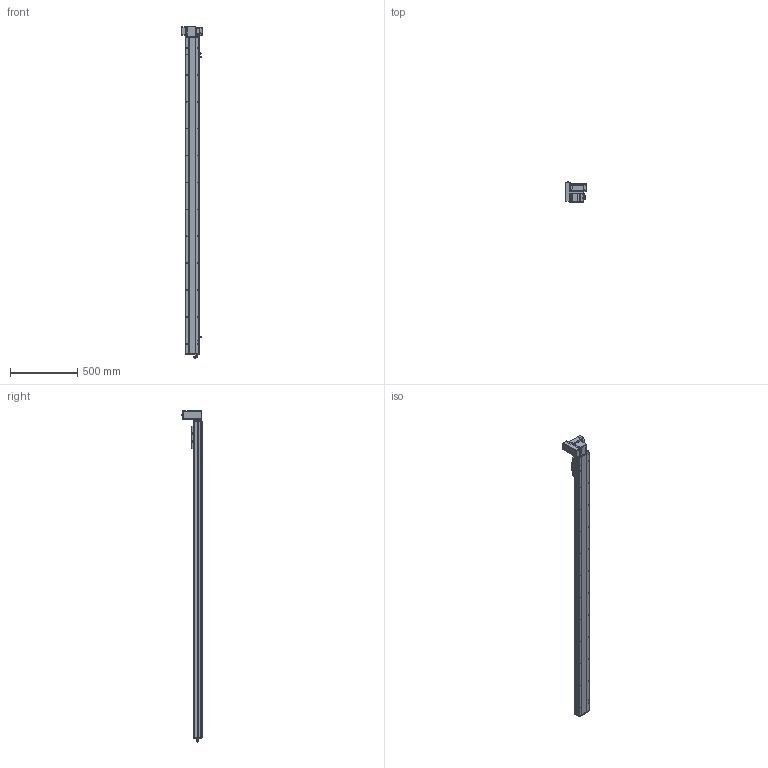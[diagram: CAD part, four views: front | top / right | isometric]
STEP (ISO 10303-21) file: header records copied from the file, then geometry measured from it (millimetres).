
FILE_DESCRIPTION (( 'STEP AP214' ), '1' );
FILE_NAME ('TPE10-L41.6-2100-LU-P20-C4.STEP', '2023-03-13T01:41:04', ( '' ), ( '' ), 'SwSTEP 2.0', 'SolidWorks 2020', '' );
FILE_SCHEMA (( 'AUTOMOTIVE_DESIGN' ));
Length unit declared in the file: millimetre
Products named in the file (16): 葩璃 TPF10 詩湍揤啣 TPF10 12^TPE10-L41.6-LU-P20-C4; 葩璃 詩湍75^TPE10-L41.6-LU-P20-C4; 葩璃 TPE10 賑雄殤 TPE10^TPE10-L41.6-LU-P20-C4; 葩璃 pm-t65-672^TPE10-L41.6-LU-P20-C4; hex nuts, style 1-grades ab gb_GB_FASTENER_NUT_SNAB1 M3-N; 葩璃 PL8-02^TPE10-L41.6-LU-P20-C4; 葩璃 TPE10-L-001 菁釱MZ-102A-01^TPE10-L41.6-LU-P20-C4; 葩璃 侂狟400W^TPE10-L41.6-LU-P20-C4; TPE10-L41.6-2100-LU-P20-C4; hexagon socket head cap screws gb_GB_FASTENER_SCREWS_HSHCS M3X6-N; 葩璃 TPF10-L-008 耜醱啣^TPE10-L41.6-LU-P20-C4; 葩璃 侂狟100W^TPE10-L41.6-LU-P20-C4; hexagon head bolts-full thread gb_GB_FASTENER_BOLT_STBAB A M5X16-N; 葩璃 TPE10-L-002 耜裔ZTMT-102B-04^TPE10-L41.6-LU-P20-C4; 葩璃 TPT10-L-009 萇儂啣^TPE10-L41.6-LU-P20-C4_200W; 葩璃 TPE10-007 々湍釱MZ-169x88^TPE10-L41.6-LU-P20-C4
Assembly tree (29 placements, depth 2):
  TPE10-L41.6-2100-LU-P20-C4
    葩璃 TPE10-L-001 菁釱MZ-102A-01^TPE10-L41.6-LU-P20-C4
    葩璃 TPE10-L-002 耜裔ZTMT-102B-04^TPE10-L41.6-LU-P20-C4  x2
    葩璃 詩湍75^TPE10-L41.6-LU-P20-C4
    葩璃 TPE10-007 々湍釱MZ-169x88^TPE10-L41.6-LU-P20-C4
    葩璃 TPF10-L-008 耜醱啣^TPE10-L41.6-LU-P20-C4
    葩璃 TPE10 賑雄殤 TPE10^TPE10-L41.6-LU-P20-C4
    葩璃 TPF10 詩湍揤啣 TPF10 12^TPE10-L41.6-LU-P20-C4  x2
    葩璃 TPT10-L-009 萇儂啣^TPE10-L41.6-LU-P20-C4_200W
    葩璃 pm-t65-672^TPE10-L41.6-LU-P20-C4  x3
    葩璃 PL8-02^TPE10-L41.6-LU-P20-C4
    葩璃 侂狟100W^TPE10-L41.6-LU-P20-C4
    葩璃 侂狟400W^TPE10-L41.6-LU-P20-C4
    hexagon socket head cap screws gb_GB_FASTENER_SCREWS_HSHCS M3X6-N  x6
    hex nuts, style 1-grades ab gb_GB_FASTENER_NUT_SNAB1 M3-N  x6
    hexagon head bolts-full thread gb_GB_FASTENER_BOLT_STBAB A M5X16-N
Bounding box: 162.5 x 149.65 x 2468.35 mm (x, y, z)
Volume: 7893842.6 mm3; surface area: 1916139.3 mm2
Topology: 37 solids, 37 shells, 2077 faces, 5321 edges, 3364 vertices
Faces by surface type: plane 1106, cylinder 661, cone 240, bspline 42, torus 26, sphere 2
Entity records: 52224 total; most frequent: CARTESIAN_POINT 10690, DIRECTION 8384, ORIENTED_EDGE 8034, EDGE_CURVE 4017, AXIS2_PLACEMENT_3D 2956, VERTEX_POINT 2591, LINE 2472, VECTOR 2472
